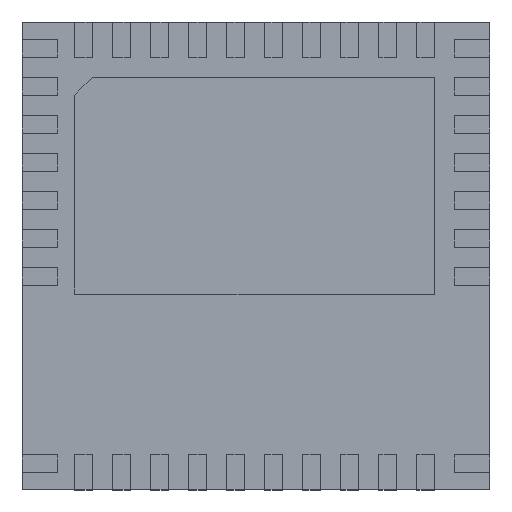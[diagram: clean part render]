
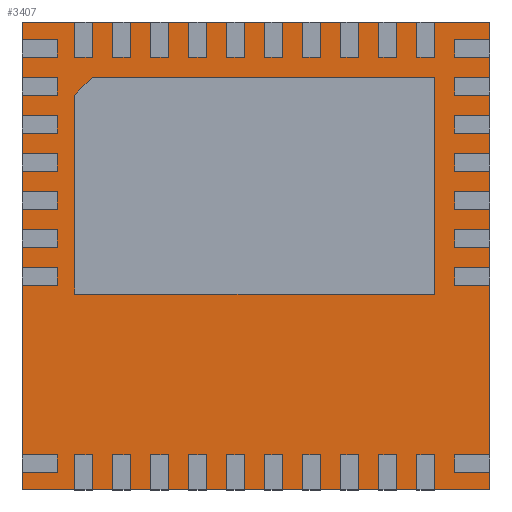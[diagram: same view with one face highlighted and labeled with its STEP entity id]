
A CAD part, top view. The second image highlights one B-rep face of the part: STEP entity #3407.
In plain terms, the highlighted planar face has unit normal (0, 0, 1).
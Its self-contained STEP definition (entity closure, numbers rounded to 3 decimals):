
#57=PLANE('',#3691);
#327=FACE_OUTER_BOUND('',#558,.T.);
#558=EDGE_LOOP('',(#2497,#2498,#2499,#2500));
#787=LINE('',#4859,#1247);
#790=LINE('',#4865,#1250);
#793=LINE('',#4871,#1253);
#796=LINE('',#4875,#1256);
#1247=VECTOR('',#3931,10.);
#1250=VECTOR('',#3936,10.);
#1253=VECTOR('',#3941,10.);
#1256=VECTOR('',#3946,10.);
#1710=VERTEX_POINT('',#4856);
#1711=VERTEX_POINT('',#4858);
#1713=VERTEX_POINT('',#4864);
#1715=VERTEX_POINT('',#4870);
#2019=EDGE_CURVE('',#1711,#1710,#787,.T.);
#2022=EDGE_CURVE('',#1713,#1711,#790,.T.);
#2025=EDGE_CURVE('',#1715,#1713,#793,.F.);
#2028=EDGE_CURVE('',#1710,#1715,#796,.T.);
#2497=ORIENTED_EDGE('',*,*,#2028,.T.);
#2498=ORIENTED_EDGE('',*,*,#2025,.T.);
#2499=ORIENTED_EDGE('',*,*,#2022,.T.);
#2500=ORIENTED_EDGE('',*,*,#2019,.T.);
#3407=ADVANCED_FACE('',(#327),#57,.T.);
#3691=AXIS2_PLACEMENT_3D('',#4876,#3947,#3948);
#3931=DIRECTION('',(-1.,0.,0.));
#3936=DIRECTION('',(0.,1.,0.));
#3941=DIRECTION('',(-1.,0.,0.));
#3946=DIRECTION('',(0.,-1.,0.));
#3947=DIRECTION('center_axis',(0.,0.,1.));
#3948=DIRECTION('ref_axis',(1.,0.,0.));
#4856=CARTESIAN_POINT('',(0.,8.,1.85));
#4858=CARTESIAN_POINT('',(8.,8.,1.85));
#4859=CARTESIAN_POINT('',(8.,8.,1.85));
#4864=CARTESIAN_POINT('',(8.,0.01,1.85));
#4865=CARTESIAN_POINT('',(8.,0.,1.85));
#4870=CARTESIAN_POINT('',(0.,0.01,1.85));
#4871=CARTESIAN_POINT('',(2.,0.01,1.85));
#4875=CARTESIAN_POINT('',(0.,8.,1.85));
#4876=CARTESIAN_POINT('Origin',(4.,4.,1.85));
